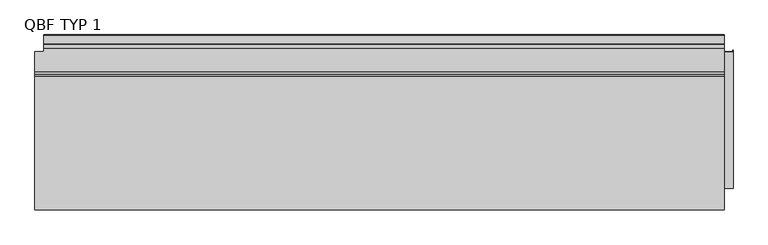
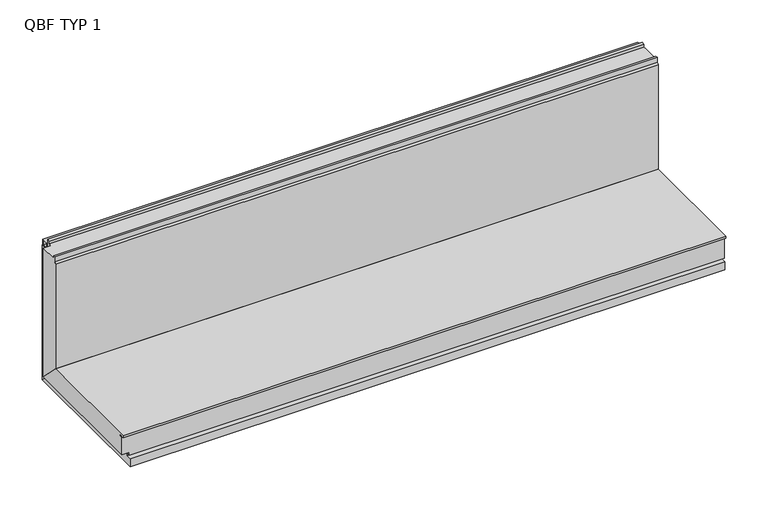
"""IFC4 building model written with IfcOpenShell, lengths in millimetres: plate geometry, TR_C_H_QBISS_Corner_Long_B : QBF TYP 1."""

from ifc_helpers import new_model, si_unit, frame, origin, place, context, project, spatial, polyline, outline, extrude, faceted_brep, source, transform, mapped, element, save


def qbf_typ_1_f17363b2(model_context):
    return source(origin(), model_context, "Body", "SolidModel", [
        extrude(outline(polyline([(-27.9998293, 487.7023593), (-24.4998428, 487.7023593), (-24.4998428, 476.0), (-4.4998615, 476.0), (-4.4998615, 493.0), (-24.4998428, 493.0), (-24.4998428, 488.5023593), (-25.9998428, 488.5023593), (-25.9998428, 494.5), (-2.9971631, 494.5), (-2.9971631, 474.5), (-25.9998428, 474.5), (-25.9998428, 481.2976407), (-27.9998293, 481.2976407), (-27.9998293, 480.4976407), (-28.7998428, 480.4976407), (-28.7998428, 488.5023593), (-27.9998293, 488.5023593), (-27.9998293, 487.7023593)])), frame((-986.5500002, 0.0, 0.0), z_axis=(1.0, 0.0, 0.0), x_axis=(0.0, 1.0, 0.0)), (0.0, 0.0, 1.0), 1973.1000003),
        faceted_brep([(986.7500002, -120.0, 120.0), (986.7500002, -508.0, 120.0), (986.7500002, -508.0, 114.0), (986.7500002, -487.0, 114.0), (986.7500002, -487.0, 108.0), (986.7500002, -500.0, 108.0), (986.7500002, -500.0, 49.0), (986.7500002, -49.0, 49.0), (-1011.6500002, -500.0, 108.0), (-1011.6500002, -487.0, 108.0), (-1011.6500002, -487.0, 114.0), (-1011.6500002, -508.0, 114.0), (-1011.6500002, -508.0, 120.0), (-1011.6500002, -120.0, 120.0), (-1011.6500002, -49.0, 49.0), (-1011.6500002, -500.0, 49.0), (986.5500002, -49.0, 49.0), (986.5500002, 0.0, 0.0), (-986.5500002, 0.0, 0.0), (-986.5500002, -49.0, 49.0), (-986.5500002, -500.0, 49.0), (-986.5500002, -500.0, 39.0), (986.5500002, -500.0, 39.0), (986.5500002, -500.0, 49.0), (-986.5500002, -487.0, 39.0), (986.5500002, -487.0, 39.0), (-986.5500002, -487.0, 29.0), (986.5500002, -487.0, 29.0), (-986.5500002, -504.0, 29.0), (986.5500002, -504.0, 29.0), (-986.5500002, -504.0, 0.0), (986.5500002, -504.0, 0.0), (986.5500002, -49.0, 0.0), (-986.5500002, -49.0, 0.0)], [[[0, 1, 2, 3, 4, 5, 6, 7]], [[8, 9, 10, 11, 12, 13, 14, 15]], [[13, 0, 7, 16, 17, 18, 19, 14]], [[1, 0, 13, 12]], [[2, 1, 12, 11]], [[3, 2, 11, 10]], [[4, 3, 10, 9]], [[5, 4, 9, 8]], [[5, 8, 15, 20, 21, 22, 23, 6]], [[22, 21, 24, 25]], [[25, 24, 26, 27]], [[27, 26, 28, 29]], [[29, 28, 30, 31]], [[18, 17, 32, 31, 30, 33]], [[20, 19, 18, 33, 30, 28, 26, 24, 21]], [[19, 20, 15, 14]], [[16, 23, 22, 25, 27, 29, 31, 32, 17]], [[23, 16, 7, 6]]]),
        faceted_brep([(986.7500002, -108.0, 500.0), (986.7500002, -108.0, 510.0), (986.7500002, -114.0, 510.0), (986.7500002, -114.0, 492.0), (986.7500002, -120.0, 486.0), (986.7500002, -120.0, 120.0), (986.7500002, -49.0, 49.0), (986.7500002, -49.0, 500.0), (-1011.6500002, -120.0, 120.0), (-1011.6500002, -120.0, 486.0), (-1011.6500002, -114.0, 492.0), (-1011.6500002, -114.0, 510.0), (-1011.6500002, -108.0, 510.0), (-1011.6500002, -108.0, 500.0), (-1011.6500002, -49.0, 500.0), (-1011.6500002, -49.0, 49.0), (986.5500002, 0.0, 473.0), (986.5500002, 0.0, 0.0), (-986.5500002, 0.0, 0.0), (-986.5500002, 0.0, 473.0), (986.5500002, -29.0, 473.0), (-986.5500002, -29.0, 473.0), (986.5500002, -29.0, 510.0), (-986.5500002, -29.0, 510.0), (986.5500002, -39.0, 510.0), (-986.5500002, -39.0, 510.0), (986.5500002, -39.0, 500.0), (-986.5500002, -39.0, 500.0), (986.5500002, -49.0, 500.0), (-986.5500002, -49.0, 500.0), (-986.5500002, -49.0, 49.0), (986.5500002, -49.0, 49.0)], [[[0, 1, 2, 3, 4, 5, 6, 7]], [[8, 9, 10, 11, 12, 13, 14, 15]], [[16, 17, 18, 19]], [[20, 16, 19, 21]], [[22, 20, 21, 23]], [[24, 22, 23, 25]], [[26, 24, 25, 27]], [[13, 0, 7, 28, 26, 27, 29, 14]], [[1, 0, 13, 12]], [[2, 1, 12, 11]], [[3, 2, 11, 10]], [[4, 3, 10, 9]], [[5, 4, 9, 8]], [[5, 8, 15, 30, 18, 17, 31, 6]], [[28, 31, 17, 16, 20, 22, 24, 26]], [[31, 28, 7, 6]], [[29, 30, 15, 14]], [[30, 29, 27, 25, 23, 21, 19, 18]]]),
        faceted_brep([(1011.7500002, -49.0, 416.0), (1011.7500002, -44.0, 416.0), (1010.9500002, -44.0, 416.0), (1010.9500002, -48.2, 416.0), (986.5500002, -48.2, 416.0), (986.5500002, -49.0, 416.0), (1011.7500002, -49.0, 49.0), (1011.7500002, -446.0, 49.0), (1011.7500002, -446.0, 44.0), (1011.7500002, -44.0, 44.0), (1010.9500002, -44.0, 44.0), (1010.9500002, -446.0, 44.0), (1010.9500002, -446.0, 48.2), (1010.9500002, -48.2, 48.2), (986.5500002, -48.2, 48.2), (986.5500002, -446.0, 48.2), (986.5500002, -446.0, 49.0), (986.5500002, -49.0, 49.0)], [[[0, 1, 2, 3, 4, 5]], [[1, 0, 6, 7, 8, 9]], [[2, 1, 9, 10]], [[3, 2, 10, 11, 12, 13]], [[4, 3, 13, 14]], [[5, 4, 14, 15, 16, 17]], [[0, 5, 17, 6]], [[7, 16, 15, 12, 11, 8]], [[10, 9, 8, 11]], [[14, 13, 12, 15]], [[6, 17, 16, 7]]]),
    ])


if __name__ == "__main__":
    model = new_model("IFC4")
    model_context = context("Model", 3, world=origin())
    ifc_project = project(units=[si_unit("LENGTHUNIT", "METRE", prefix="MILLI")], contexts=[model_context])
    site = spatial("IfcSite", under=ifc_project)
    building = spatial("IfcBuilding", under=site)
    placement = place(None, origin())
    qbf_typ_1_shape = qbf_typ_1_f17363b2(model_context)
    element("IfcPlate", 1, ObjectType="TR_C_H_QBISS_Corner_Long_B : QBF TYP 1", at=placement, inside=building, context=model_context, shape_type="MappedRepresentation", body=[
        mapped(qbf_typ_1_shape, transform((0.0, 0.0, 0.0), x_axis=(1.0, 0.0, 0.0), y_axis=(0.0, 1.0, 0.0), z_axis=(0.0, 0.0, 1.0))),
    ])
    save(model, "model.ifc")
